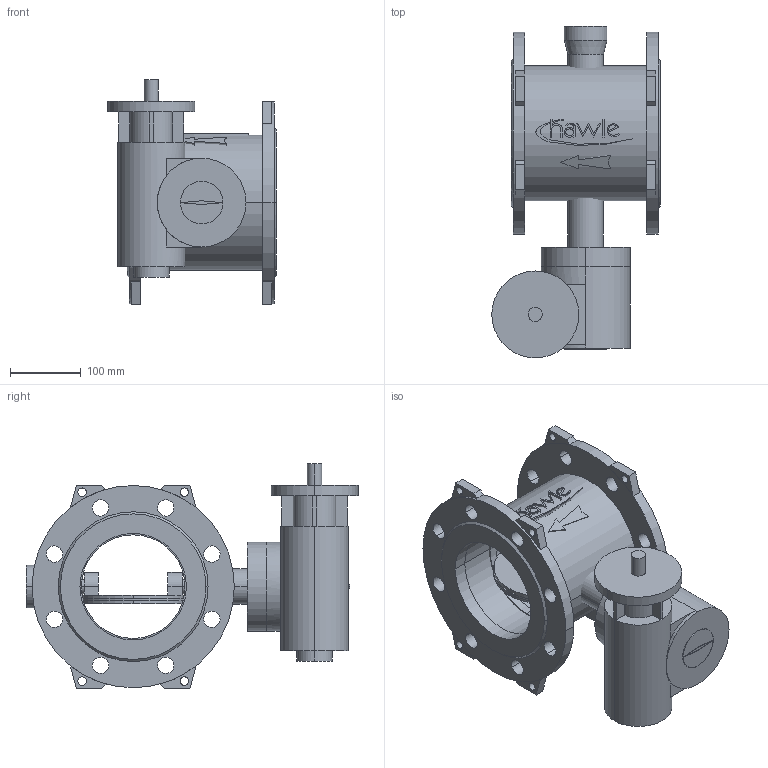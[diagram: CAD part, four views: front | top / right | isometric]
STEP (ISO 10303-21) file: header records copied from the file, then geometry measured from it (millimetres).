
FILE_DESCRIPTION(('STEP AP214'),'1');
FILE_NAME('S:/EK/USER/CAT6/3DHomepage_27-04-2012/neu_08-01-2013/9881K/9881K_PN16_DN150.STP','2013-02-26T15:13:34',(' '),(' '),'Spatial InterOp 3D',' ',' ');
FILE_SCHEMA(('automotive_design'));
Length unit declared in the file: millimetre
Products named in the file (44): 3D-Objekt
Bounding box: 237.25 x 467.75 x 316 mm (x, y, z)
Volume: 7131028.3 mm3; surface area: 815821 mm2
Topology: 44 solids, 44 shells, 346 faces, 761 edges, 506 vertices
Faces by surface type: plane 194, cylinder 146, cone 6
Entity records: 13575 total; most frequent: DIRECTION 1849, CARTESIAN_POINT 1731, ORIENTED_EDGE 1522, EDGE_CURVE 761, AXIS2_PLACEMENT_3D 700, VERTEX_POINT 506, LINE 449, VECTOR 449
